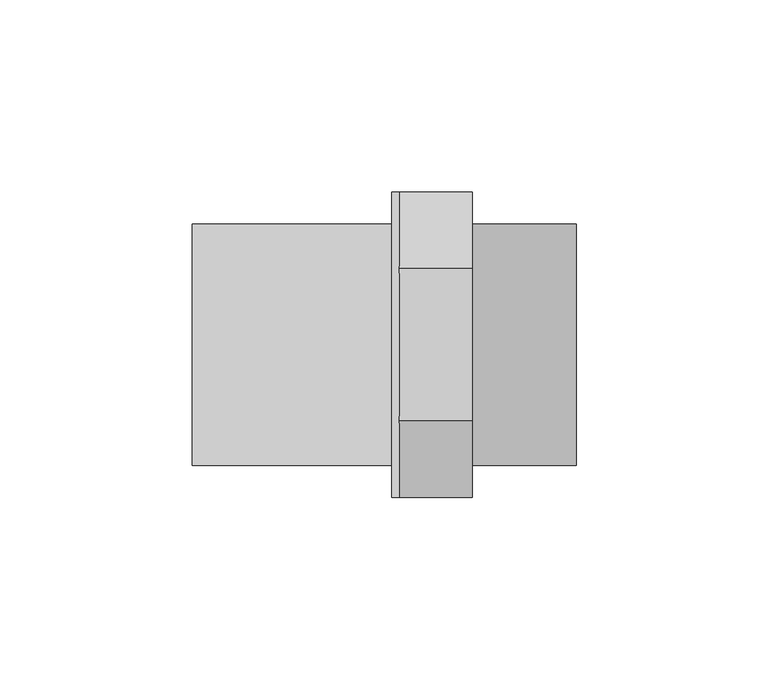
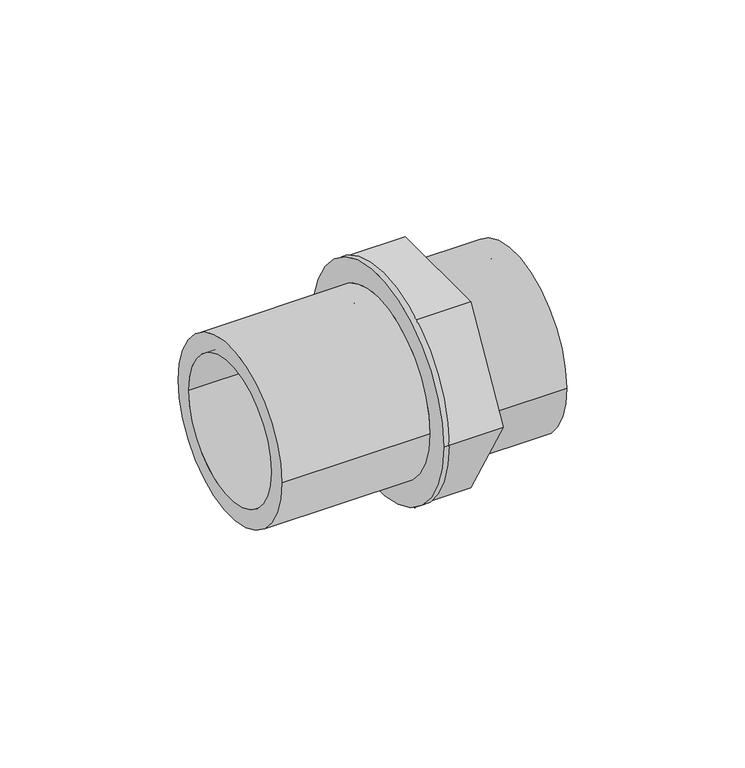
"""IFC4 building model written with IfcOpenShell, lengths in millimetres: pipe fitting geometry, 01011312 : Manguito tanque PVC."""

from ifc_helpers import new_model, si_unit, frame, origin, place, context, project, spatial, polyline, circle_curve, source, transform, mapped, element, save
from ifc_brep_helpers import plane_surface, cylinder_surface, revolved_surface, advanced_brep


def pipe_fitting_2bba80c8(model_context):
    return source(origin(), model_context, "Body", "AdvancedBrep", [
        advanced_brep(
        [(23.0, -19.9185843, 34.5), (23.0, -39.8371686, 0.0), (23.0, -19.9185843, -34.5), (23.0, 19.9185843, -34.5), (23.0, 39.8371686, 0.0), (23.0, 19.9185843, 34.5), (23.0, -31.5, 0.0), (23.0, 31.5, 0.0), (23.0, 24.75, 0.0), (23.0, -24.75, 0.0), (4.0, -19.9185843, 34.5), (4.0, -39.8371686, 0.0), (4.0, -19.9185843, -34.5), (4.0, 19.9185843, -34.5), (4.0, 39.8371686, 0.0), (4.0, 19.9185843, 34.5), (50.0, -31.5, 0.0), (50.0, 31.5, 0.0), (50.0, -24.75, 0.0), (50.0, 24.75, 0.0), (-50.0, 31.5, 0.0), (-50.0, -31.5, 0.0), (-50.0, 25.0, 0.0), (-50.0, -25.0, 0.0), (2.0, -31.5, 0.0), (2.0, 31.5, 0.0), (2.0, -39.8371686, 0.0), (2.0, 39.8371686, 0.0), (2.0, -25.0, 0.0), (2.0, 25.0, 0.0)],
        [
            (0, 1),
            (1, 2),
            (2, 3),
            (3, 4),
            (4, 5),
            (5, 0),
            (6, 7, circle_curve(frame((23.0, 0.0, 0.0), z_axis=(-1.0, 0.0, 0.0), x_axis=(0.0, 1.0, 0.0)), 31.5)),
            (7, 6, circle_curve(frame((23.0, 0.0, 0.0), z_axis=(-1.0, 0.0, 0.0), x_axis=(0.0, 1.0, 0.0)), 31.5)),
            (8, 9, circle_curve(frame((23.0, 0.0, 0.0), z_axis=(1.0, 0.0, 0.0), x_axis=(0.0, 1.0, 0.0)), 24.75)),
            (9, 8, circle_curve(frame((23.0, 0.0, 0.0), z_axis=(1.0, 0.0, 0.0), x_axis=(0.0, 1.0, 0.0)), 24.75)),
            (0, 10),
            (10, 11),
            (11, 1),
            (11, 12),
            (12, 2),
            (12, 13),
            (13, 3),
            (13, 14),
            (14, 4),
            (14, 15),
            (15, 5),
            (15, 10),
            (16, 17, circle_curve(frame((50.0, 0.0, 0.0), z_axis=(1.0, 0.0, 0.0), x_axis=(0.0, 1.0, 0.0)), 31.5)),
            (17, 16, circle_curve(frame((50.0, 0.0, 0.0), z_axis=(1.0, 0.0, 0.0), x_axis=(0.0, 1.0, 0.0)), 31.5)),
            (18, 19, circle_curve(frame((50.0, 0.0, 0.0), z_axis=(-1.0, 0.0, 0.0), x_axis=(0.0, 1.0, 0.0)), 24.75)),
            (19, 18, circle_curve(frame((50.0, 0.0, 0.0), z_axis=(-1.0, 0.0, 0.0), x_axis=(0.0, 1.0, 0.0)), 24.75)),
            (17, 7),
            (6, 16),
            (20, 21, circle_curve(frame((-50.0, 0.0, 0.0), z_axis=(-1.0, 0.0, 0.0), x_axis=(0.0, -1.0, 0.0)), 31.5)),
            (21, 20, circle_curve(frame((-50.0, 0.0, 0.0), z_axis=(-1.0, 0.0, 0.0), x_axis=(0.0, -1.0, 0.0)), 31.5)),
            (22, 23, circle_curve(frame((-50.0, 0.0, 0.0), z_axis=(1.0, 0.0, 0.0), x_axis=(0.0, -1.0, 0.0)), 25.0)),
            (23, 22, circle_curve(frame((-50.0, 0.0, 0.0), z_axis=(1.0, 0.0, 0.0), x_axis=(0.0, -1.0, 0.0)), 25.0)),
            (21, 24),
            (24, 25, circle_curve(frame((2.0, 0.0, 0.0), z_axis=(-1.0, 0.0, 0.0), x_axis=(0.0, -1.0, 0.0)), 31.5)),
            (25, 20),
            (25, 24, circle_curve(frame((2.0, 0.0, 0.0), z_axis=(-1.0, 0.0, 0.0), x_axis=(0.0, -1.0, 0.0)), 31.5)),
            (10, 11, circle_curve(frame((4.0, 0.0, 0.0), z_axis=(1.0, 0.0, 0.0), x_axis=(0.0, 1.0, 0.0)), 39.8371686)),
            (14, 15, circle_curve(frame((4.0, 0.0, 0.0), z_axis=(1.0, 0.0, 0.0), x_axis=(0.0, 1.0, 0.0)), 39.8371686)),
            (15, 10, circle_curve(frame((4.0, 0.0, 0.0), z_axis=(1.0, 0.0, 0.0), x_axis=(0.0, 1.0, 0.0)), 39.8371686)),
            (13, 14, circle_curve(frame((4.0, 0.0, 0.0), z_axis=(1.0, 0.0, 0.0), x_axis=(0.0, 1.0, 0.0)), 39.8371686)),
            (11, 12, circle_curve(frame((4.0, 0.0, 0.0), z_axis=(1.0, 0.0, 0.0), x_axis=(0.0, 1.0, 0.0)), 39.8371686)),
            (12, 13, circle_curve(frame((4.0, 0.0, 0.0), z_axis=(1.0, 0.0, 0.0), x_axis=(0.0, 1.0, 0.0)), 39.8371686)),
            (26, 27, circle_curve(frame((2.0, 0.0, 0.0), z_axis=(-1.0, 0.0, 0.0), x_axis=(0.0, 1.0, 0.0)), 39.8371686)),
            (27, 26, circle_curve(frame((2.0, 0.0, 0.0), z_axis=(-1.0, 0.0, 0.0), x_axis=(0.0, 1.0, 0.0)), 39.8371686)),
            (28, 29, circle_curve(frame((2.0, 0.0, 0.0), z_axis=(-1.0, 0.0, 0.0), x_axis=(0.0, -1.0, 0.0)), 25.0)),
            (29, 28, circle_curve(frame((2.0, 0.0, 0.0), z_axis=(-1.0, 0.0, 0.0), x_axis=(0.0, -1.0, 0.0)), 25.0)),
            (27, 14),
            (11, 26),
            (18, 9),
            (8, 19),
            (22, 29),
            (28, 23),
        ],
        [
            plane_surface(frame((23.0, -19.9185843, 34.5), z_axis=(1.0, 0.0, 0.0), x_axis=(0.0, -0.5000000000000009, -0.8660254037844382))),
            plane_surface(frame((23.0, -19.9185843, 34.5), z_axis=(0.0, -0.8660254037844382, 0.5000000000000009), x_axis=(-1.0, 0.0, 0.0))),
            plane_surface(frame((23.0, -39.8371686, 0.0), z_axis=(0.0, -0.866025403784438, -0.5000000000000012), x_axis=(-1.0, 0.0, 0.0))),
            plane_surface(frame((23.0, -19.9185843, -34.5), z_axis=(0.0, 0.0, -1.0), x_axis=(-1.0, 0.0, 0.0))),
            plane_surface(frame((23.0, 19.9185843, -34.5), z_axis=(0.0, 0.8660254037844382, -0.500000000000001), x_axis=(-1.0, 0.0, 0.0))),
            plane_surface(frame((23.0, 39.8371686, 0.0), z_axis=(0.0, 0.866025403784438, 0.5000000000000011), x_axis=(-1.0, 0.0, 0.0))),
            plane_surface(frame((23.0, 19.9185843, 34.5), z_axis=(0.0, 0.0, 1.0), x_axis=(-1.0, 0.0, 0.0))),
            plane_surface(frame((50.0, 0.0, 0.0), z_axis=(1.0, 0.0, 0.0), x_axis=(0.0, 0.0, 1.0))),
            cylinder_surface(frame((23.0, 0.0, 0.0), z_axis=(-1.0, 0.0, 0.0), x_axis=(0.0, 1.0, 0.0)), 31.5),
            plane_surface(frame((-50.0, 0.0, 0.0), z_axis=(-1.0, 0.0, 0.0), x_axis=(0.0, 0.0, 1.0))),
            cylinder_surface(frame((2.0, 0.0, 0.0), z_axis=(1.0, 0.0, 0.0), x_axis=(0.0, -1.0, 0.0)), 31.5),
            plane_surface(frame((4.0, 39.8371686, 0.0), z_axis=(1.0, 0.0, 0.0), x_axis=(0.0, 0.0, 1.0))),
            plane_surface(frame((2.0, 39.8371686, 0.0), z_axis=(-1.0, 0.0, 0.0), x_axis=(0.0, 0.0, -1.0))),
            cylinder_surface(frame((2.0, 0.0, 0.0), z_axis=(1.0, 0.0, 0.0), x_axis=(0.0, 1.0, 0.0)), 39.8371686),
            revolved_surface(polyline([(50.0, 24.75, 0.0), (23.0, 24.75, 0.0)]), (23.0, 0.0, 0.0), (1.0, 0.0, 0.0)),
            revolved_surface(polyline([(-50.0, -25.0, 0.0), (2.0, -25.0, 0.0)]), (2.0, 0.0, 0.0), (-1.0, 0.0, 0.0)),
        ],
        [
            (0, [[1, 2, 3, 4, 5, 6], [7, 8]]),
            (0, [[9, 10]]),
            (1, [[-1, 11, 12, 13]]),
            (2, [[-2, -13, 14, 15]]),
            (3, [[-3, -15, 16, 17]]),
            (4, [[-4, -17, 18, 19]]),
            (5, [[-5, -19, 20, 21]]),
            (6, [[-6, -21, 22, -11]]),
            (7, [[23, 24], [25, 26]]),
            (8, [[-24, 27, -7, 28]]),
            (8, [[-23, -28, -8, -27]]),
            (9, [[29, 30], [31, 32]]),
            (10, [[-30, 33, 34, 35]]),
            (10, [[-29, -35, 36, -33]]),
            (11, [[37, -12]]),
            (11, [[38, -20]]),
            (11, [[39, -22]]),
            (11, [[40, -18]]),
            (11, [[41, -14]]),
            (11, [[42, -16]]),
            (12, [[43, 44], [-34, -36]]),
            (12, [[45, 46]]),
            (13, [[-44, 47, -40, -42, -41, 48]]),
            (13, [[-43, -48, -37, -39, -38, -47]]),
            (14, [[-25, 49, -9, 50]]),
            (14, [[-26, -50, -10, -49]]),
            (15, [[-31, 51, -45, 52]]),
            (15, [[-32, -52, -46, -51]]),
        ],
    ),
    ])


if __name__ == "__main__":
    model = new_model("IFC4")
    model_context = context("Model", 3, world=origin())
    ifc_project = project(units=[si_unit("LENGTHUNIT", "METRE", prefix="MILLI")], contexts=[model_context])
    site = spatial("IfcSite", under=ifc_project)
    building = spatial("IfcBuilding", under=site)
    placement = place(None, origin())
    pipe_fitting_shape = pipe_fitting_2bba80c8(model_context)
    element("IfcPipeFitting", 1, ObjectType="01011312 : Manguito tanque PVC", at=placement, inside=building, context=model_context, shape_type="MappedRepresentation", body=[
        mapped(pipe_fitting_shape, transform((0.0, 0.0, 0.0), x_axis=(1.0, 0.0, 0.0), y_axis=(0.0, 1.0, 0.0), z_axis=(0.0, 0.0, 1.0))),
    ])
    save(model, "model.ifc")
